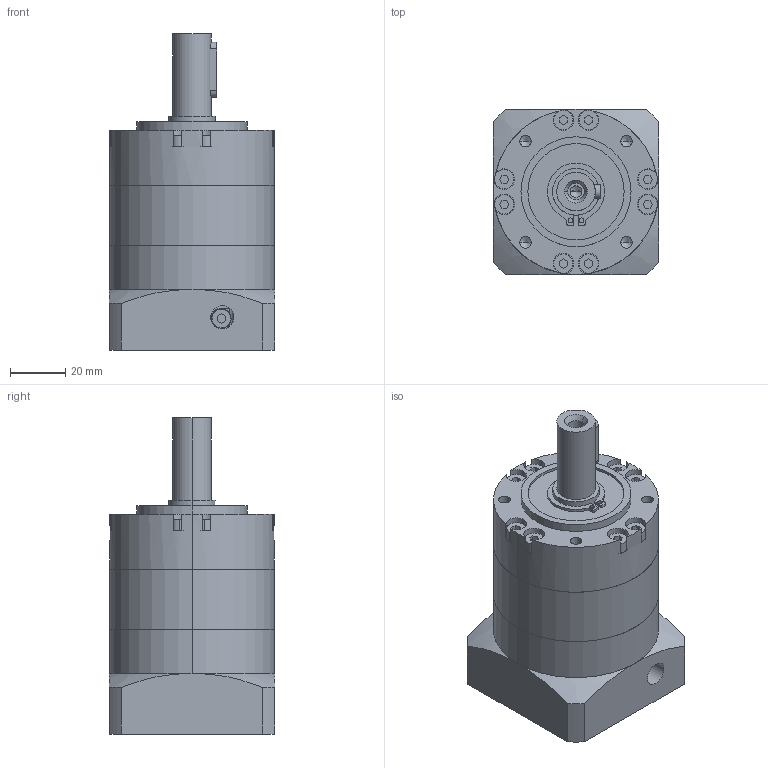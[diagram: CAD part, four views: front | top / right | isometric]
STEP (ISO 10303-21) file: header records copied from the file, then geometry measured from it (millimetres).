
FILE_DESCRIPTION (( 'STEP AP214' ), '1' );
FILE_NAME ('PRL60-L1 目录1.STEP', '2020-09-14T02:08:53', ( '微软用户' ), ( '微软中国' ), 'SwSTEP 2.0', 'SolidWorks 2014', '' );
FILE_SCHEMA (( 'AUTOMOTIVE_DESIGN' ));
Length unit declared in the file: millimetre
Products named in the file (15): PLE60 狟屳唳_D6-60 D7-14 梓袧; PLE60 κｳﾝﾈｦ_ﾒｻｼｶﾄﾚｳﾝﾈｦ; PRL60-L1 Ŀ¼1; PLE60-窣諉啣-梓袧 (2)_D8-50 D9-70 D10-M10 L4-22 L6-32(22+10) L7-4 A2-60 R-39.5 梓袧; PLE60 奻屳唳; 粣創-6004 20x42x12; 邧埴瑩 5x5x20; 囀鞠褒蹟佪-M4℅12
Assembly tree (7 placements, depth 2):
  PLE60 狟屳唳_D6-60 D7-14 梓袧
  PLE60 κｳﾝﾈｦ_ﾒｻｼｶﾄﾚｳﾝﾈｦ
  PRL60-L1 Ŀ¼1
    PLE60 κｳﾝﾈｦ_ﾒｻｼｶﾄﾚｳﾝﾈｦ
    PLE60 狟屳唳_D6-60 D7-14 梓袧
    囀鞠褒蹟佪-M4℅12
    邧埴瑩 5x5x20
    粣創-6004 20x42x12
    PLE60 奻屳唳
    PLE60-窣諉啣-梓袧 (2)_D8-50 D9-70 D10-M10 L4-22 L6-32(22+10) L7-4 A2-60 R-39.5 梓袧
  PLE60-窣諉啣-梓袧 (2)_D8-50 D9-70 D10-M10 L4-22 L6-32(22+10) L7-4 A2-60 R-39.5 梓袧
  PLE60 奻屳唳
Bounding box: 60 x 60 x 115 mm (x, y, z)
Volume: 213058.3 mm3; surface area: 66198.3 mm2
Topology: 7 solids, 7 shells, 485 faces, 1327 edges, 861 vertices
Faces by surface type: cylinder 172, plane 172, bspline 118, cone 23
Entity records: 24976 total; most frequent: CARTESIAN_POINT 7617, ORIENTED_EDGE 2586, DIRECTION 2262, EDGE_CURVE 1293, AXIS2_PLACEMENT_3D 910, VERTEX_POINT 853, EDGE_LOOP 572, CIRCLE 532
